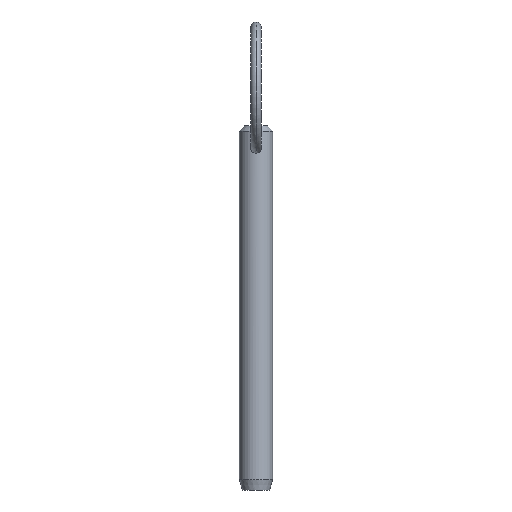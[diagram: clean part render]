
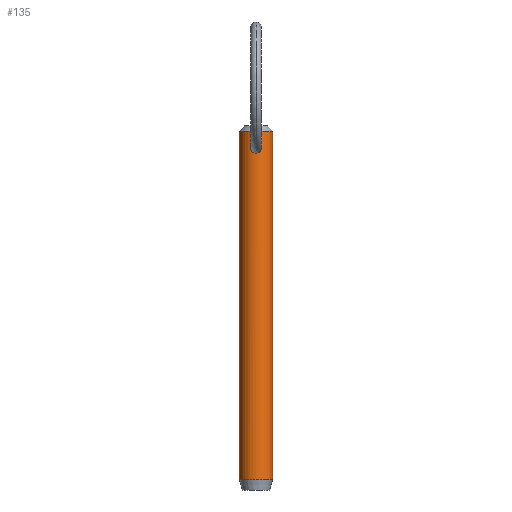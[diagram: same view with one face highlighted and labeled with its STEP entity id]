
A CAD part, front view. The second image highlights one B-rep face of the part: STEP entity #135.
In plain terms, the highlighted cylindrical face has radius 3.175 mm (diameter 6.35 mm), a partial arc.
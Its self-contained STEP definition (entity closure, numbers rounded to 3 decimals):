
#4 = CARTESIAN_POINT ( 'NONE',  ( -0.134, -3.175, 56.303 ) ) ;
#6 = CARTESIAN_POINT ( 'NONE',  ( 0., -3.175, 56.303 ) ) ;
#11 = LINE ( 'NONE', #211, #337 ) ;
#21 = DIRECTION ( 'NONE',  ( 0., 0., -1. ) ) ;
#37 = CARTESIAN_POINT ( 'NONE',  ( 0., -3.175, 56.303 ) ) ;
#42 = CARTESIAN_POINT ( 'NONE',  ( -1.004, -3.012, 57.195 ) ) ;
#47 = DIRECTION ( 'NONE',  ( 0., 0., -1. ) ) ;
#58 = B_SPLINE_CURVE_WITH_KNOTS ( 'NONE', 3,
 ( #37, #4, #414, #263, #116, #266, #381, #300, #42, #155, #124, #82, #222, #383, #342, #485, #193, #296 ),
 .UNSPECIFIED., .F., .F.,
 ( 4, 2, 2, 2, 2, 2, 2, 2, 4 ),
 ( 0.006, 0.006, 0.007, 0.007, 0.008, 0.008, 0.009, 0.009, 0.009 ),
 .UNSPECIFIED. ) ;
#59 = ORIENTED_EDGE ( 'NONE', *, *, #247, .T. ) ;
#60 = EDGE_CURVE ( 'NONE', #319, #358, #11, .T. ) ;
#69 = ORIENTED_EDGE ( 'NONE', *, *, #295, .F. ) ;
#73 = DIRECTION ( 'NONE',  ( 0., 0., -1. ) ) ;
#77 = CYLINDRICAL_SURFACE ( 'NONE', #355, 3.175 ) ;
#82 = CARTESIAN_POINT ( 'NONE',  ( -0.615, -3.116, 58.153 ) ) ;
#83 = CARTESIAN_POINT ( 'NONE',  ( 0.617, -3.116, 58.151 ) ) ;
#87 = CARTESIAN_POINT ( 'NONE',  ( 3.175, 0., -5.92 ) ) ;
#111 = DIRECTION ( 'NONE',  ( 0., 0., 1. ) ) ;
#116 = CARTESIAN_POINT ( 'NONE',  ( -0.629, -3.114, 56.505 ) ) ;
#118 = CARTESIAN_POINT ( 'NONE',  ( 0.515, -3.135, 56.43 ) ) ;
#119 = CARTESIAN_POINT ( 'NONE',  ( 0.888, -3.049, 56.809 ) ) ;
#124 = CARTESIAN_POINT ( 'NONE',  ( -0.882, -3.055, 57.86 ) ) ;
#135 = ADVANCED_FACE ( 'NONE', ( #390, #397 ), #77, .T. ) ;
#143 = VERTEX_POINT ( 'NONE', #326 ) ;
#154 = CARTESIAN_POINT ( 'NONE',  ( 0., -3.175, 56.303 ) ) ;
#155 = CARTESIAN_POINT ( 'NONE',  ( -0.991, -3.016, 57.596 ) ) ;
#156 = VERTEX_POINT ( 'NONE', #437 ) ;
#175 = B_SPLINE_CURVE_WITH_KNOTS ( 'NONE', 3,
 ( #407, #421, #297, #302, #83, #299, #229, #341, #343, #119, #192, #415, #118, #380, #410, #154 ),
 .UNSPECIFIED., .F., .F.,
 ( 4, 2, 2, 2, 2, 2, 2, 4 ),
 ( 0.003, 0.003, 0.004, 0.004, 0.005, 0.005, 0.006, 0.006 ),
 .UNSPECIFIED. ) ;
#184 = DIRECTION ( 'NONE',  ( -1., 0., 0. ) ) ;
#187 = DIRECTION ( 'NONE',  ( 1., 0., 0. ) ) ;
#192 = CARTESIAN_POINT ( 'NONE',  ( 0.815, -3.07, 56.695 ) ) ;
#193 = CARTESIAN_POINT ( 'NONE',  ( -0.067, -3.175, 58.382 ) ) ;
#197 = DIRECTION ( 'NONE',  ( 0., 0., -1. ) ) ;
#199 = CIRCLE ( 'NONE', #309, 3.175 ) ;
#208 = ORIENTED_EDGE ( 'NONE', *, *, #333, .T. ) ;
#211 = CARTESIAN_POINT ( 'NONE',  ( -3.175, 0., 55.9 ) ) ;
#222 = CARTESIAN_POINT ( 'NONE',  ( -0.508, -3.136, 58.235 ) ) ;
#229 = CARTESIAN_POINT ( 'NONE',  ( 0.992, -3.016, 57.594 ) ) ;
#233 = EDGE_CURVE ( 'NONE', #143, #319, #453, .T. ) ;
#239 = EDGE_CURVE ( 'NONE', #354, #156, #58, .T. ) ;
#241 = ORIENTED_EDGE ( 'NONE', *, *, #60, .T. ) ;
#247 = EDGE_CURVE ( 'NONE', #358, #436, #199, .T. ) ;
#251 = CARTESIAN_POINT ( 'NONE',  ( -3.175, 0., 60.48 ) ) ;
#263 = CARTESIAN_POINT ( 'NONE',  ( -0.516, -3.135, 56.431 ) ) ;
#266 = CARTESIAN_POINT ( 'NONE',  ( -0.815, -3.07, 56.695 ) ) ;
#272 = EDGE_LOOP ( 'NONE', ( #69, #462, #241, #59 ) ) ;
#293 = CARTESIAN_POINT ( 'NONE',  ( 0., 0., -5.92 ) ) ;
#295 = EDGE_CURVE ( 'NONE', #143, #436, #431, .T. ) ;
#296 = CARTESIAN_POINT ( 'NONE',  ( 0., -3.175, 58.382 ) ) ;
#297 = CARTESIAN_POINT ( 'NONE',  ( 0.269, -3.166, 58.35 ) ) ;
#299 = CARTESIAN_POINT ( 'NONE',  ( 0.884, -3.055, 57.857 ) ) ;
#300 = CARTESIAN_POINT ( 'NONE',  ( -0.983, -3.02, 57.059 ) ) ;
#302 = CARTESIAN_POINT ( 'NONE',  ( 0.51, -3.136, 58.234 ) ) ;
#309 = AXIS2_PLACEMENT_3D ( 'NONE', #293, #111, #373 ) ;
#310 = CARTESIAN_POINT ( 'NONE',  ( 3.175, 0., 55.9 ) ) ;
#319 = VERTEX_POINT ( 'NONE', #251 ) ;
#320 = AXIS2_PLACEMENT_3D ( 'NONE', #447, #47, #187 ) ;
#326 = CARTESIAN_POINT ( 'NONE',  ( 3.175, 0., 60.48 ) ) ;
#333 = EDGE_CURVE ( 'NONE', #156, #354, #175, .T. ) ;
#337 = VECTOR ( 'NONE', #21, 1000. ) ;
#341 = CARTESIAN_POINT ( 'NONE',  ( 1.004, -3.012, 57.193 ) ) ;
#342 = CARTESIAN_POINT ( 'NONE',  ( -0.264, -3.165, 58.344 ) ) ;
#343 = CARTESIAN_POINT ( 'NONE',  ( 0.982, -3.02, 57.058 ) ) ;
#346 = CARTESIAN_POINT ( 'NONE',  ( -3.175, 0., -5.92 ) ) ;
#354 = VERTEX_POINT ( 'NONE', #6 ) ;
#355 = AXIS2_PLACEMENT_3D ( 'NONE', #371, #73, #184 ) ;
#358 = VERTEX_POINT ( 'NONE', #346 ) ;
#371 = CARTESIAN_POINT ( 'NONE',  ( 0., 0., 55.9 ) ) ;
#373 = DIRECTION ( 'NONE',  ( -1., 0., 0. ) ) ;
#380 = CARTESIAN_POINT ( 'NONE',  ( 0.268, -3.166, 56.329 ) ) ;
#381 = CARTESIAN_POINT ( 'NONE',  ( -0.888, -3.049, 56.809 ) ) ;
#383 = CARTESIAN_POINT ( 'NONE',  ( -0.328, -3.159, 58.321 ) ) ;
#390 = FACE_OUTER_BOUND ( 'NONE', #272, .T. ) ;
#397 = FACE_BOUND ( 'NONE', #411, .T. ) ;
#407 = CARTESIAN_POINT ( 'NONE',  ( 0., -3.175, 58.382 ) ) ;
#410 = CARTESIAN_POINT ( 'NONE',  ( 0.134, -3.175, 56.303 ) ) ;
#411 = EDGE_LOOP ( 'NONE', ( #208, #479 ) ) ;
#414 = CARTESIAN_POINT ( 'NONE',  ( -0.269, -3.166, 56.329 ) ) ;
#415 = CARTESIAN_POINT ( 'NONE',  ( 0.628, -3.114, 56.504 ) ) ;
#421 = CARTESIAN_POINT ( 'NONE',  ( 0.134, -3.175, 58.382 ) ) ;
#431 = LINE ( 'NONE', #310, #434 ) ;
#434 = VECTOR ( 'NONE', #197, 1000. ) ;
#436 = VERTEX_POINT ( 'NONE', #87 ) ;
#437 = CARTESIAN_POINT ( 'NONE',  ( 0., -3.175, 58.382 ) ) ;
#447 = CARTESIAN_POINT ( 'NONE',  ( 0., 0., 60.48 ) ) ;
#453 = CIRCLE ( 'NONE', #320, 3.175 ) ;
#462 = ORIENTED_EDGE ( 'NONE', *, *, #233, .T. ) ;
#479 = ORIENTED_EDGE ( 'NONE', *, *, #239, .T. ) ;
#485 = CARTESIAN_POINT ( 'NONE',  ( -0.133, -3.173, 58.374 ) ) ;
